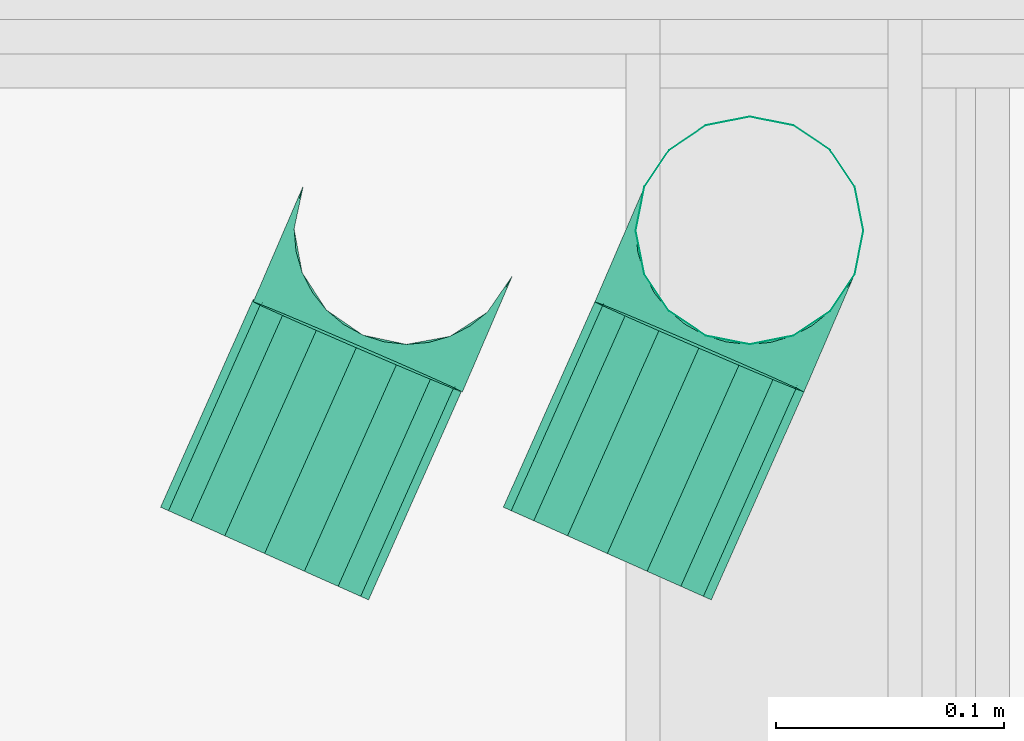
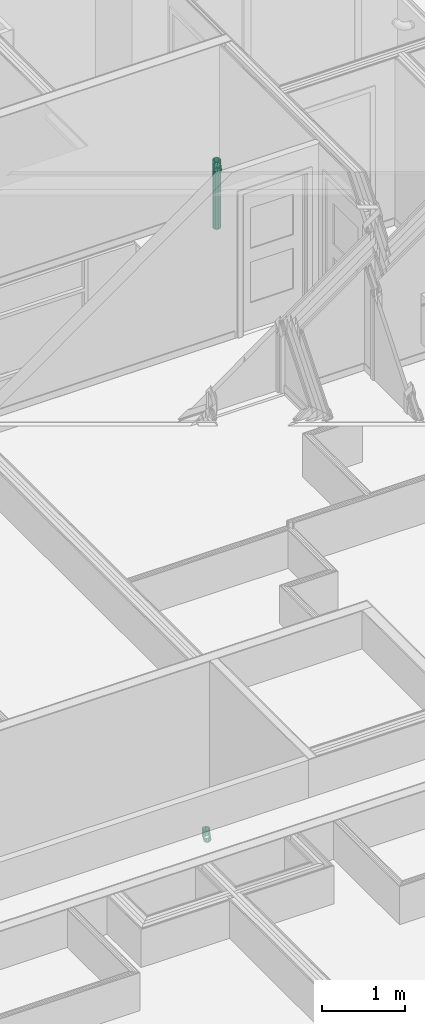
# One storey, part 159 of 169: 3 flow segments, 2 flow fittings.
"""IFC2X3 building model written with IfcOpenShell, lengths in metres."""

from ifc_helpers import new_model, entity, si_unit, converted_unit, derived_unit, money_unit, direction, frame, origin_with_axes, place, context, subcontext, project, spatial, open_shell, faceted_brep, surface_model, material, type_object, element, save


model = new_model("IFC2X3")

# Units and contexts
model_context = context("Model", 3, precision=1e-05, world=origin_with_axes(), true_north=direction((0.0, 1.0)))
body_context = subcontext(model_context, "Body", "Model", "MODEL_VIEW", scale=1.0)
ifc_project = project(units=[si_unit("LENGTHUNIT", "METRE"), si_unit("AREAUNIT", "SQUARE_METRE"), si_unit("VOLUMEUNIT", "CUBIC_METRE"), si_unit("ABSORBEDDOSEUNIT", "GRAY"), si_unit("AMOUNTOFSUBSTANCEUNIT", "MOLE"), si_unit("DOSEEQUIVALENTUNIT", "SIEVERT"), si_unit("ELECTRICCAPACITANCEUNIT", "FARAD"), si_unit("ELECTRICCHARGEUNIT", "COULOMB"), si_unit("ELECTRICCONDUCTANCEUNIT", "SIEMENS"), si_unit("ELECTRICCURRENTUNIT", "AMPERE"), si_unit("ELECTRICRESISTANCEUNIT", "OHM"), si_unit("ELECTRICVOLTAGEUNIT", "VOLT"), si_unit("ENERGYUNIT", "JOULE"), si_unit("FORCEUNIT", "NEWTON"), si_unit("FREQUENCYUNIT", "HERTZ"), si_unit("ILLUMINANCEUNIT", "LUX"), si_unit("INDUCTANCEUNIT", "HENRY"), si_unit("LUMINOUSFLUXUNIT", "LUMEN"), si_unit("LUMINOUSINTENSITYUNIT", "CANDELA"), si_unit("MAGNETICFLUXDENSITYUNIT", "TESLA"), si_unit("MAGNETICFLUXUNIT", "WEBER"), si_unit("MASSUNIT", "GRAM"), converted_unit("PLANEANGLEUNIT", "degree", entity("IfcReal", 0.0174532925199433), si_unit("PLANEANGLEUNIT", "RADIAN"), dimensions=[0, 0, 0, 0, 0, 0, 0]), si_unit("POWERUNIT", "WATT"), si_unit("PRESSUREUNIT", "PASCAL"), si_unit("RADIOACTIVITYUNIT", "BECQUEREL"), si_unit("SOLIDANGLEUNIT", "STERADIAN"), si_unit("THERMODYNAMICTEMPERATUREUNIT", "KELVIN"), si_unit("TIMEUNIT", "SECOND"), derived_unit("ACCELERATIONUNIT", [(si_unit("LENGTHUNIT", "METRE"), 1), (si_unit("TIMEUNIT", "SECOND"), -2)]), derived_unit("ANGULARVELOCITYUNIT", [(converted_unit("PLANEANGLEUNIT", "degree", entity("IfcReal", 0.0174532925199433), si_unit("PLANEANGLEUNIT", "RADIAN"), dimensions=[0, 0, 0, 0, 0, 0, 0]), 1), (si_unit("TIMEUNIT", "SECOND"), -1)]), derived_unit("CURVATUREUNIT", [(converted_unit("PLANEANGLEUNIT", "degree", entity("IfcReal", 0.0174532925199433), si_unit("PLANEANGLEUNIT", "RADIAN"), dimensions=[0, 0, 0, 0, 0, 0, 0]), 1), (si_unit("LENGTHUNIT", "METRE"), -1)]), derived_unit("DYNAMICVISCOSITYUNIT", [(si_unit("PRESSUREUNIT", "PASCAL"), 1), (si_unit("TIMEUNIT", "SECOND"), 1)]), derived_unit("HEATFLUXDENSITYUNIT", [(si_unit("POWERUNIT", "WATT"), 1), (si_unit("LENGTHUNIT", "METRE"), -2)]), derived_unit("HEATINGVALUEUNIT", [(si_unit("ENERGYUNIT", "JOULE"), 1), (si_unit("MASSUNIT", "GRAM"), -1)]), derived_unit("INTEGERCOUNTRATEUNIT", [(si_unit("TIMEUNIT", "SECOND"), -1)]), derived_unit("IONCONCENTRATIONUNIT", [(si_unit("MASSUNIT", "GRAM"), 1), (si_unit("VOLUMEUNIT", "CUBIC_METRE"), -1)]), derived_unit("ISOTHERMALMOISTURECAPACITYUNIT", [(si_unit("VOLUMEUNIT", "CUBIC_METRE"), 1), (si_unit("MASSUNIT", "GRAM"), -1)]), derived_unit("KINEMATICVISCOSITYUNIT", [(si_unit("AREAUNIT", "SQUARE_METRE"), 1), (si_unit("TIMEUNIT", "SECOND"), -1)]), derived_unit("LINEARFORCEUNIT", [(si_unit("FORCEUNIT", "NEWTON"), 1), (si_unit("LENGTHUNIT", "METRE"), -1)]), derived_unit("LINEARMOMENTUNIT", [(si_unit("FORCEUNIT", "NEWTON"), 1), (si_unit("LENGTHUNIT", "METRE"), -1)]), derived_unit("LINEARSTIFFNESSUNIT", [(si_unit("FORCEUNIT", "NEWTON"), 1), (si_unit("LENGTHUNIT", "METRE"), -1)]), derived_unit("LINEARVELOCITYUNIT", [(si_unit("LENGTHUNIT", "METRE"), 1), (si_unit("TIMEUNIT", "SECOND"), -1)]), derived_unit("LUMINOUSINTENSITYDISTRIBUTIONUNIT", [(si_unit("LUMINOUSINTENSITYUNIT", "CANDELA"), 1), (si_unit("LUMINOUSFLUXUNIT", "LUMEN"), -1)]), derived_unit("MASSDENSITYUNIT", [(si_unit("MASSUNIT", "GRAM"), 1), (si_unit("VOLUMEUNIT", "CUBIC_METRE"), -1)]), derived_unit("MASSFLOWRATEUNIT", [(si_unit("MASSUNIT", "GRAM"), 1), (si_unit("TIMEUNIT", "SECOND"), -1)]), derived_unit("MASSPERLENGTHUNIT", [(si_unit("MASSUNIT", "GRAM"), 1), (si_unit("LENGTHUNIT", "METRE"), -1)]), derived_unit("MODULUSOFELASTICITYUNIT", [(si_unit("FORCEUNIT", "NEWTON"), 1), (si_unit("AREAUNIT", "SQUARE_METRE"), -1)]), derived_unit("MODULUSOFLINEARSUBGRADEREACTIONUNIT", [(si_unit("FORCEUNIT", "NEWTON"), 1), (si_unit("LENGTHUNIT", "METRE"), -2)]), derived_unit("MODULUSOFROTATIONALSUBGRADEREACTIONUNIT", [(si_unit("FORCEUNIT", "NEWTON"), 1), (si_unit("LENGTHUNIT", "METRE"), 1)]), derived_unit("MODULUSOFSUBGRADEREACTIONUNIT", [(si_unit("FORCEUNIT", "NEWTON"), 1), (si_unit("VOLUMEUNIT", "CUBIC_METRE"), -1)]), derived_unit("MOISTUREDIFFUSIVITYUNIT", [(si_unit("VOLUMEUNIT", "CUBIC_METRE"), 1), (si_unit("TIMEUNIT", "SECOND"), -1)]), derived_unit("MOLECULARWEIGHTUNIT", [(si_unit("MASSUNIT", "GRAM"), 1), (si_unit("AMOUNTOFSUBSTANCEUNIT", "MOLE"), -1)]), derived_unit("PLANARFORCEUNIT", [(si_unit("FORCEUNIT", "NEWTON"), 1), (si_unit("LENGTHUNIT", "METRE"), -2)]), derived_unit("ROTATIONALFREQUENCYUNIT", [(si_unit("TIMEUNIT", "SECOND"), -1)]), derived_unit("ROTATIONALMASSUNIT", [(si_unit("MASSUNIT", "GRAM"), 1), (si_unit("LENGTHUNIT", "METRE"), 2)]), derived_unit("ROTATIONALSTIFFNESSUNIT", [(si_unit("FORCEUNIT", "NEWTON"), 1), (si_unit("LENGTHUNIT", "METRE"), 1), (converted_unit("PLANEANGLEUNIT", "degree", entity("IfcReal", 0.0174532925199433), si_unit("PLANEANGLEUNIT", "RADIAN"), dimensions=[0, 0, 0, 0, 0, 0, 0]), -1)]), derived_unit("SECTIONAREAINTEGRALUNIT", [(si_unit("LENGTHUNIT", "METRE"), 5)]), derived_unit("SECTIONMODULUSUNIT", [(si_unit("LENGTHUNIT", "METRE"), 3)]), derived_unit("SHEARMODULUSUNIT", [(si_unit("FORCEUNIT", "NEWTON"), 1), (si_unit("AREAUNIT", "SQUARE_METRE"), -1)]), derived_unit("SOUNDPOWERUNIT", [(si_unit("ENERGYUNIT", "JOULE"), 1), (si_unit("TIMEUNIT", "SECOND"), -1)]), derived_unit("SPECIFICHEATCAPACITYUNIT", [(si_unit("FORCEUNIT", "NEWTON"), 1), (si_unit("MASSUNIT", "GRAM"), -1), (si_unit("THERMODYNAMICTEMPERATUREUNIT", "KELVIN"), -1)]), derived_unit("TEMPERATUREGRADIENTUNIT", [(si_unit("THERMODYNAMICTEMPERATUREUNIT", "KELVIN"), 1), (si_unit("LENGTHUNIT", "METRE"), -1)]), derived_unit("THERMALADMITTANCEUNIT", [(si_unit("POWERUNIT", "WATT"), 1), (si_unit("AREAUNIT", "SQUARE_METRE"), -1), (si_unit("THERMODYNAMICTEMPERATUREUNIT", "KELVIN"), -1)]), derived_unit("THERMALCONDUCTANCEUNIT", [(si_unit("POWERUNIT", "WATT"), 1), (si_unit("LENGTHUNIT", "METRE"), -1), (si_unit("THERMODYNAMICTEMPERATUREUNIT", "KELVIN"), -1)]), derived_unit("THERMALEXPANSIONCOEFFICIENTUNIT", [(si_unit("THERMODYNAMICTEMPERATUREUNIT", "KELVIN"), -1)]), derived_unit("THERMALRESISTANCEUNIT", [(si_unit("AREAUNIT", "SQUARE_METRE"), 1), (si_unit("POWERUNIT", "WATT"), -1)]), derived_unit("THERMALTRANSMITTANCEUNIT", [(si_unit("POWERUNIT", "WATT"), 1), (si_unit("AREAUNIT", "SQUARE_METRE"), -1), (si_unit("THERMODYNAMICTEMPERATUREUNIT", "KELVIN"), -1)]), derived_unit("TORQUEUNIT", [(si_unit("FORCEUNIT", "NEWTON"), 1), (si_unit("LENGTHUNIT", "METRE"), 1)]), derived_unit("VAPORPERMEABILITYUNIT", [(si_unit("MASSUNIT", "GRAM"), 1), (si_unit("TIMEUNIT", "SECOND"), -1)]), derived_unit("VOLUMETRICFLOWRATEUNIT", [(si_unit("VOLUMEUNIT", "CUBIC_METRE"), 1), (si_unit("TIMEUNIT", "SECOND"), -1)]), derived_unit("WARPINGCONSTANTUNIT", [(si_unit("LENGTHUNIT", "METRE"), 6)]), derived_unit("WARPINGMOMENTUNIT", [(si_unit("FORCEUNIT", "NEWTON"), 1), (si_unit("LENGTHUNIT", "METRE"), 2)]), money_unit("GBP")], contexts=[model_context])

# Site, building, storey, space
site_placement = place(None, origin_with_axes())
site = spatial("IfcSite", under=ifc_project, at=site_placement, Name="Site", CompositionType="ELEMENT")
building_placement = place(site_placement, origin_with_axes())
building = spatial("IfcBuilding", under=site, at=building_placement, Name="Building01", CompositionType="ELEMENT")
storey_placement = place(building_placement, frame((0.0, 0.0, 5.15), z_axis=(0.0, 0.0, 1.0), x_axis=(1.0, 0.0, 0.0)))
storey = spatial("IfcBuildingStorey", under=building, at=storey_placement, Name="1F", CompositionType="ELEMENT", Elevation=5.15)
space_1_placement = place(storey_placement, frame((15.83844, 8.649812, 9.86), z_axis=(0.0, 0.0, 1.0), x_axis=(-1.0, 0.0, 0.0)))
space_1 = spatial("IfcSpace", under=storey, at=space_1_placement, Name="landing", CompositionType="ELEMENT", InteriorOrExteriorSpace="NOTDEFINED")

# Flow segment
ifc_material_1 = material(Name="M_BSUK_Ventilation")
duct_segment_type = type_object("IfcDuctSegmentType", Name="M-RoundDuct", PredefinedType="RIGIDSEGMENT")
placement = place(building_placement, origin_with_axes())
flow_segment_1_placement = place(placement, frame((15.691796, 8.430558, 15.779648), z_axis=(0.0, 0.0, -1.0), x_axis=(0.40708484, 0.91339035, 0.0)))
element("IfcFlowSegment", 1, at=flow_segment_1_placement, inside=space_1, type_object=duct_segment_type, material=ifc_material_1, Name="M-RoundDuct", ObjectType="M-RoundDuct", context=body_context, shape_type="Brep", body=[
    faceted_brep([(0.1, 0.0, -0.05), (0.0, 0.0, -0.05), (0.0, 0.019134, -0.046194), (0.1, 0.019134, -0.046194), (0.0, 0.035355, -0.035355), (0.1, 0.035355, -0.035355), (0.0, 0.046194, -0.019134), (0.1, 0.046194, -0.019134), (0.0, 0.05, 0.0), (0.1, 0.05, 0.0), (0.0, 0.046194, 0.019134), (0.1, 0.046194, 0.019134), (0.0, 0.035355, 0.035355), (0.1, 0.035355, 0.035355), (0.0, 0.019134, 0.046194), (0.1, 0.019134, 0.046194), (0.0, 0.0, 0.05), (0.1, 0.0, 0.05), (0.0, -0.019134, 0.046194), (0.1, -0.019134, 0.046194), (0.0, -0.035355, 0.035355), (0.1, -0.035355, 0.035355), (0.0, -0.046194, 0.019134), (0.1, -0.046194, 0.019134), (0.0, -0.05, 0.0), (0.1, -0.05, 0.0), (0.0, -0.046194, -0.019134), (0.1, -0.046194, -0.019134), (0.0, -0.035355, -0.035355), (0.1, -0.035355, -0.035355), (0.0, -0.019134, -0.046194), (0.1, -0.019134, -0.046194)], [[[0, 1, 2, 3]], [[3, 2, 4, 5]], [[5, 4, 6, 7]], [[7, 6, 8, 9]], [[9, 8, 10, 11]], [[11, 10, 12, 13]], [[13, 12, 14, 15]], [[15, 14, 16, 17]], [[17, 16, 18, 19]], [[19, 18, 20, 21]], [[21, 20, 22, 23]], [[23, 22, 24, 25]], [[25, 24, 26, 27]], [[27, 26, 28, 29]], [[29, 28, 30, 31]], [[31, 30, 1, 0]]]),
])

# Space
space_2_placement = place(storey_placement, frame((14.609584, 7.454282, 0.017932), z_axis=(0.0, 0.0, 1.0), x_axis=(-1.0, 0.0, 0.0)))
space_2 = spatial("IfcSpace", under=storey, at=space_2_placement, Name="landing", CompositionType="ELEMENT", InteriorOrExteriorSpace="NOTDEFINED")

# Flow segments
flow_segment_2_placement = place(placement, frame((15.541302, 8.430558, 5.949648), z_axis=(0.0, 0.0, -1.0), x_axis=(0.40708484, 0.91339035, 0.0)))
element("IfcFlowSegment", 2, at=flow_segment_2_placement, inside=space_2, type_object=duct_segment_type, material=ifc_material_1, Name="M-RoundDuct", ObjectType="M-RoundDuct", context=body_context, shape_type="Brep", body=[
    faceted_brep([(0.1, 0.0, -0.05), (0.0, 0.0, -0.05), (0.0, 0.019134, -0.046194), (0.1, 0.019134, -0.046194), (0.0, 0.035355, -0.035355), (0.1, 0.035355, -0.035355), (0.0, 0.046194, -0.019134), (0.1, 0.046194, -0.019134), (0.0, 0.05, 0.0), (0.1, 0.05, 0.0), (0.0, 0.046194, 0.019134), (0.1, 0.046194, 0.019134), (0.0, 0.035355, 0.035355), (0.1, 0.035355, 0.035355), (0.0, 0.019134, 0.046194), (0.1, 0.019134, 0.046194), (0.0, 0.0, 0.05), (0.1, 0.0, 0.05), (0.0, -0.019134, 0.046194), (0.1, -0.019134, 0.046194), (0.0, -0.035355, 0.035355), (0.1, -0.035355, 0.035355), (0.0, -0.046194, 0.019134), (0.1, -0.046194, 0.019134), (0.0, -0.05, 0.0), (0.1, -0.05, 0.0), (0.0, -0.046194, -0.019134), (0.1, -0.046194, -0.019134), (0.0, -0.035355, -0.035355), (0.1, -0.035355, -0.035355), (0.0, -0.019134, -0.046194), (0.1, -0.019134, -0.046194)], [[[0, 1, 2, 3]], [[3, 2, 4, 5]], [[5, 4, 6, 7]], [[7, 6, 8, 9]], [[9, 8, 10, 11]], [[11, 10, 12, 13]], [[13, 12, 14, 15]], [[15, 14, 16, 17]], [[17, 16, 18, 19]], [[19, 18, 20, 21]], [[21, 20, 22, 23]], [[23, 22, 24, 25]], [[25, 24, 26, 27]], [[27, 26, 28, 29]], [[29, 28, 30, 31]], [[31, 30, 1, 0]]]),
])
ifc_material_2 = material(Name="M_BSUK_ColdWater")
pipe_segment_type = type_object("IfcPipeSegmentType", Name="M-BmpStraightpipe-DefaultPipe", PredefinedType="RIGIDSEGMENT")
flow_segment_3_placement = place(placement, frame((15.754265, 8.57241, 15.724919), z_axis=(1.0, 0.0, 0.0), x_axis=(0.0, 0.0, -1.0)))
element("IfcFlowSegment", 3, at=flow_segment_3_placement, inside=space_1, type_object=pipe_segment_type, material=ifc_material_2, Name="M-BmpStraightpipe-DefaultPipe", ObjectType="M-BmpStraightpipe-DefaultPipe", context=body_context, shape_type="Brep", body=[
    faceted_brep([(0.893583, 0.0, -0.05), (0.0, 0.0, -0.05), (0.0, 0.019134, -0.046194), (0.893583, 0.019134, -0.046194), (0.0, 0.035355, -0.035355), (0.893583, 0.035355, -0.035355), (0.0, 0.046194, -0.019134), (0.893583, 0.046194, -0.019134), (0.0, 0.05, 0.0), (0.893583, 0.05, 0.0), (0.0, 0.046194, 0.019134), (0.893583, 0.046194, 0.019134), (0.0, 0.035355, 0.035355), (0.893583, 0.035355, 0.035355), (0.0, 0.019134, 0.046194), (0.893583, 0.019134, 0.046194), (0.0, 0.0, 0.05), (0.893583, 0.0, 0.05), (0.0, -0.019134, 0.046194), (0.893583, -0.019134, 0.046194), (0.0, -0.035355, 0.035355), (0.893583, -0.035355, 0.035355), (0.0, -0.046194, 0.019134), (0.893583, -0.046194, 0.019134), (0.0, -0.05, 0.0), (0.893583, -0.05, 0.0), (0.0, -0.046194, -0.019134), (0.893583, -0.046194, -0.019134), (0.0, -0.035355, -0.035355), (0.893583, -0.035355, -0.035355), (0.0, -0.019134, -0.046194), (0.893583, -0.019134, -0.046194)], [[[0, 1, 2, 3]], [[3, 2, 4, 5]], [[5, 4, 6, 7]], [[7, 6, 8, 9]], [[9, 8, 10, 11]], [[11, 10, 12, 13]], [[13, 12, 14, 15]], [[15, 14, 16, 17]], [[17, 16, 18, 19]], [[19, 18, 20, 21]], [[21, 20, 22, 23]], [[23, 22, 24, 25]], [[25, 24, 26, 27]], [[27, 26, 28, 29]], [[29, 28, 30, 31]], [[31, 30, 1, 0]]]),
])

# Flow fittings
pipe_fitting_type = type_object("IfcPipeFittingType", Name="M-BmpTee-DefaultTee", PredefinedType="JUNCTION")
flow_fitting_1_placement = place(placement, frame((15.604265, 8.57241, 5.899919), z_axis=(0.39563745, 0.91840678, 0.0), x_axis=(0.0, 0.0, 1.0)))
element("IfcFlowFitting", 4, at=flow_fitting_1_placement, inside=space_2, type_object=pipe_fitting_type, material=ifc_material_2, Name="M-BmpTee-DefaultTee", ObjectType="M-BmpTee-DefaultTee", context=body_context, shape_type="SurfaceModel", body=[
    surface_model("IfcShellBasedSurfaceModel", [(0.068757, 0.046194, -0.019134), (0.06921, 0.046194, -0.055386), (0.050077, 0.05, -0.055626), (0.085182, 0.035355, -0.035355), (0.08543, 0.035355, -0.055184), (0.096157, 0.019134, -0.046194), (0.096268, 0.019134, -0.055048), (0.099038, 0.009755, -0.049039), (0.100011, 0.0, -0.05), (0.100073, 0.0, -0.055001), (0.099038, -0.009755, -0.049039), (0.096157, -0.019134, -0.046194), (0.096268, -0.019134, -0.055048), (0.091478, -0.027779, -0.041573), (0.085182, -0.035355, -0.035355), (0.08543, -0.035355, -0.055184), (0.07751, -0.041573, -0.027779), (0.068757, -0.046194, -0.019134), (0.06921, -0.046194, -0.055386), (0.059259, -0.049039, -0.009755), (0.049382, -0.05, 0.0), (0.050077, -0.05, -0.055626), (0.030485, -0.046194, -0.019134), (0.030945, -0.046194, -0.055865), (0.014466, -0.035355, -0.035355), (0.014725, -0.035355, -0.056067), (0.003762, -0.019134, -0.046194), (0.003887, -0.019134, -0.056203), (0.000952, -0.009755, -0.049039), (3e-06, 0.0, -0.05), (8.1e-05, 0.0, -0.056251), (0.000952, 0.009755, -0.049039), (0.003762, 0.019134, -0.046194), (0.003887, 0.019134, -0.056203), (0.008325, 0.027779, -0.041573), (0.014466, 0.035355, -0.035355), (0.014725, 0.035355, -0.056067), (0.021948, 0.041573, -0.027779), (0.030485, 0.046194, -0.019134), (0.030945, 0.046194, -0.055865), (0.039749, 0.049039, -0.009755), (0.049382, 0.05, 0.0), (0.008325, -0.027779, -0.041573), (0.021948, -0.041573, -0.027779), (0.039749, -0.049039, -0.009755), (0.091478, 0.027779, -0.041573), (0.07751, 0.041573, -0.027779), (0.059259, 0.049039, -0.009755), (-0.005, -0.05, 0.0), (0.105012, -0.05, 0.0), (0.105012, -0.046194, 0.019134), (-0.005, -0.046194, 0.019134), (0.105012, -0.035355, 0.035355), (-0.005, -0.035355, 0.035355), (0.105012, -0.019134, 0.046194), (-0.005, -0.019134, 0.046194), (0.105012, 0.0, 0.05), (-0.005, 0.0, 0.05), (0.105012, 0.019134, 0.046194), (-0.005, 0.019134, 0.046194), (0.105012, 0.035355, 0.035355), (-0.005, 0.035355, 0.035355), (0.105012, 0.046194, 0.019134), (-0.005, 0.046194, 0.019134), (0.105012, 0.05, 0.0), (-0.005, 0.05, 0.0), (0.105012, -0.046194, -0.019134), (0.105012, -0.035355, -0.035355), (0.105012, -0.019134, -0.046194), (0.105012, 0.0, -0.05), (0.105012, 0.019134, -0.046194), (0.105012, 0.035355, -0.035355), (0.105012, 0.046194, -0.019134), (-0.005, 0.046194, -0.019134), (-0.005, 0.035355, -0.035355), (-0.005, 0.019134, -0.046194), (-0.005, 0.0, -0.05), (-0.005, -0.019134, -0.046194), (-0.005, -0.035355, -0.035355), (-0.005, -0.046194, -0.019134)], [open_shell([[[0, 1, 2]], [[3, 4, 1]], [[5, 6, 4]], [[7, 8, 9]], [[10, 11, 12]], [[13, 14, 15]], [[16, 17, 18]], [[19, 20, 21]], [[22, 23, 21]], [[24, 25, 23]], [[26, 27, 25]], [[28, 29, 30]], [[31, 32, 33]], [[34, 35, 36]], [[37, 38, 39]], [[40, 41, 2]], [[38, 40, 2]], [[2, 39, 38]], [[35, 37, 39]], [[39, 36, 35]], [[32, 34, 36]], [[36, 33, 32]], [[31, 33, 30]], [[30, 29, 31]], [[27, 26, 28]], [[30, 27, 28]], [[25, 24, 42]], [[25, 42, 26]], [[23, 22, 43]], [[23, 43, 24]], [[21, 20, 44]], [[21, 44, 22]], [[17, 19, 21]], [[21, 18, 17]], [[14, 16, 18]], [[18, 15, 14]], [[11, 13, 15]], [[15, 12, 11]], [[10, 12, 9]], [[9, 8, 10]], [[6, 5, 7]], [[9, 6, 7]], [[4, 3, 45]], [[4, 45, 5]], [[1, 0, 46]], [[1, 46, 3]], [[2, 41, 47]], [[2, 47, 0]], [[48, 20, 49, 50, 51]], [[51, 50, 52, 53]], [[53, 52, 54, 55]], [[55, 54, 56, 57]], [[57, 56, 58, 59]], [[59, 58, 60, 61]], [[61, 60, 62, 63]], [[63, 62, 64, 41, 65]], [[17, 66, 49]], [[14, 67, 66]], [[11, 68, 67]], [[10, 8, 69]], [[7, 5, 70]], [[45, 3, 71]], [[46, 0, 72]], [[47, 41, 64]], [[38, 73, 65]], [[35, 74, 73]], [[32, 75, 74]], [[31, 29, 76]], [[28, 26, 77]], [[42, 24, 78]], [[43, 22, 79]], [[44, 20, 48]], [[22, 44, 48]], [[48, 79, 22]], [[24, 43, 79]], [[79, 78, 24]], [[26, 42, 78]], [[78, 77, 26]], [[28, 77, 76]], [[76, 29, 28]], [[75, 32, 31]], [[76, 75, 31]], [[74, 35, 34]], [[74, 34, 32]], [[73, 38, 37]], [[73, 37, 35]], [[65, 41, 40]], [[65, 40, 38]], [[0, 47, 64]], [[64, 72, 0]], [[3, 46, 72]], [[72, 71, 3]], [[5, 45, 71]], [[71, 70, 5]], [[7, 70, 69]], [[69, 8, 7]], [[68, 11, 10]], [[69, 68, 10]], [[67, 14, 13]], [[67, 13, 11]], [[66, 17, 16]], [[66, 16, 14]], [[49, 20, 19]], [[49, 19, 17]]])]),
])
flow_fitting_2_placement = place(placement, frame((15.754265, 8.57241, 15.729919), z_axis=(0.39563745, 0.91840678, 0.0), x_axis=(0.0, 0.0, 1.0)))
element("IfcFlowFitting", 5, at=flow_fitting_2_placement, inside=space_1, type_object=pipe_fitting_type, material=ifc_material_2, Name="M-BmpTee-DefaultTee", ObjectType="M-BmpTee-DefaultTee", context=body_context, shape_type="SurfaceModel", body=[
    surface_model("IfcShellBasedSurfaceModel", [(0.068757, 0.046194, -0.019134), (0.06921, 0.046194, -0.055386), (0.050077, 0.05, -0.055626), (0.085182, 0.035355, -0.035355), (0.08543, 0.035355, -0.055184), (0.096157, 0.019134, -0.046194), (0.096268, 0.019134, -0.055048), (0.099038, 0.009755, -0.049039), (0.100011, 0.0, -0.05), (0.100073, 0.0, -0.055001), (0.099038, -0.009755, -0.049039), (0.096157, -0.019134, -0.046194), (0.096268, -0.019134, -0.055048), (0.091478, -0.027779, -0.041573), (0.085182, -0.035355, -0.035355), (0.08543, -0.035355, -0.055184), (0.07751, -0.041573, -0.027779), (0.068757, -0.046194, -0.019134), (0.06921, -0.046194, -0.055386), (0.059259, -0.049039, -0.009755), (0.049382, -0.05, 0.0), (0.050077, -0.05, -0.055626), (0.030485, -0.046194, -0.019134), (0.030945, -0.046194, -0.055865), (0.014466, -0.035355, -0.035355), (0.014725, -0.035355, -0.056067), (0.003762, -0.019134, -0.046194), (0.003887, -0.019134, -0.056203), (0.000952, -0.009755, -0.049039), (3e-06, 0.0, -0.05), (8.1e-05, 0.0, -0.056251), (0.000952, 0.009755, -0.049039), (0.003762, 0.019134, -0.046194), (0.003887, 0.019134, -0.056203), (0.008325, 0.027779, -0.041573), (0.014466, 0.035355, -0.035355), (0.014725, 0.035355, -0.056067), (0.021948, 0.041573, -0.027779), (0.030485, 0.046194, -0.019134), (0.030945, 0.046194, -0.055865), (0.039749, 0.049039, -0.009755), (0.049382, 0.05, 0.0), (0.008325, -0.027779, -0.041573), (0.021948, -0.041573, -0.027779), (0.039749, -0.049039, -0.009755), (0.091478, 0.027779, -0.041573), (0.07751, 0.041573, -0.027779), (0.059259, 0.049039, -0.009755), (-0.005, -0.05, 0.0), (0.105012, -0.05, 0.0), (0.105012, -0.046194, 0.019134), (-0.005, -0.046194, 0.019134), (0.105012, -0.035355, 0.035355), (-0.005, -0.035355, 0.035355), (0.105012, -0.019134, 0.046194), (-0.005, -0.019134, 0.046194), (0.105012, 0.0, 0.05), (-0.005, 0.0, 0.05), (0.105012, 0.019134, 0.046194), (-0.005, 0.019134, 0.046194), (0.105012, 0.035355, 0.035355), (-0.005, 0.035355, 0.035355), (0.105012, 0.046194, 0.019134), (-0.005, 0.046194, 0.019134), (0.105012, 0.05, 0.0), (-0.005, 0.05, 0.0), (0.105012, -0.046194, -0.019134), (0.105012, -0.035355, -0.035355), (0.105012, -0.019134, -0.046194), (0.105012, 0.0, -0.05), (0.105012, 0.019134, -0.046194), (0.105012, 0.035355, -0.035355), (0.105012, 0.046194, -0.019134), (-0.005, 0.046194, -0.019134), (-0.005, 0.035355, -0.035355), (-0.005, 0.019134, -0.046194), (-0.005, 0.0, -0.05), (-0.005, -0.019134, -0.046194), (-0.005, -0.035355, -0.035355), (-0.005, -0.046194, -0.019134)], [open_shell([[[0, 1, 2]], [[3, 4, 1]], [[5, 6, 4]], [[7, 8, 9]], [[10, 11, 12]], [[13, 14, 15]], [[16, 17, 18]], [[19, 20, 21]], [[22, 23, 21]], [[24, 25, 23]], [[26, 27, 25]], [[28, 29, 30]], [[31, 32, 33]], [[34, 35, 36]], [[37, 38, 39]], [[40, 41, 2]], [[38, 40, 2]], [[2, 39, 38]], [[35, 37, 39]], [[39, 36, 35]], [[32, 34, 36]], [[36, 33, 32]], [[31, 33, 30]], [[30, 29, 31]], [[27, 26, 28]], [[30, 27, 28]], [[25, 24, 42]], [[25, 42, 26]], [[23, 22, 43]], [[23, 43, 24]], [[21, 20, 44]], [[21, 44, 22]], [[17, 19, 21]], [[21, 18, 17]], [[14, 16, 18]], [[18, 15, 14]], [[11, 13, 15]], [[15, 12, 11]], [[10, 12, 9]], [[9, 8, 10]], [[6, 5, 7]], [[9, 6, 7]], [[4, 3, 45]], [[4, 45, 5]], [[1, 0, 46]], [[1, 46, 3]], [[2, 41, 47]], [[2, 47, 0]], [[48, 20, 49, 50, 51]], [[51, 50, 52, 53]], [[53, 52, 54, 55]], [[55, 54, 56, 57]], [[57, 56, 58, 59]], [[59, 58, 60, 61]], [[61, 60, 62, 63]], [[63, 62, 64, 41, 65]], [[17, 66, 49]], [[14, 67, 66]], [[11, 68, 67]], [[10, 8, 69]], [[7, 5, 70]], [[45, 3, 71]], [[46, 0, 72]], [[47, 41, 64]], [[38, 73, 65]], [[35, 74, 73]], [[32, 75, 74]], [[31, 29, 76]], [[28, 26, 77]], [[42, 24, 78]], [[43, 22, 79]], [[44, 20, 48]], [[22, 44, 48]], [[48, 79, 22]], [[24, 43, 79]], [[79, 78, 24]], [[26, 42, 78]], [[78, 77, 26]], [[28, 77, 76]], [[76, 29, 28]], [[75, 32, 31]], [[76, 75, 31]], [[74, 35, 34]], [[74, 34, 32]], [[73, 38, 37]], [[73, 37, 35]], [[65, 41, 40]], [[65, 40, 38]], [[0, 47, 64]], [[64, 72, 0]], [[3, 46, 72]], [[72, 71, 3]], [[5, 45, 71]], [[71, 70, 5]], [[7, 70, 69]], [[69, 8, 7]], [[68, 11, 10]], [[69, 68, 10]], [[67, 14, 13]], [[67, 13, 11]], [[66, 17, 16]], [[66, 16, 14]], [[49, 20, 19]], [[49, 19, 17]]])]),
])

save(model, "model.ifc")
